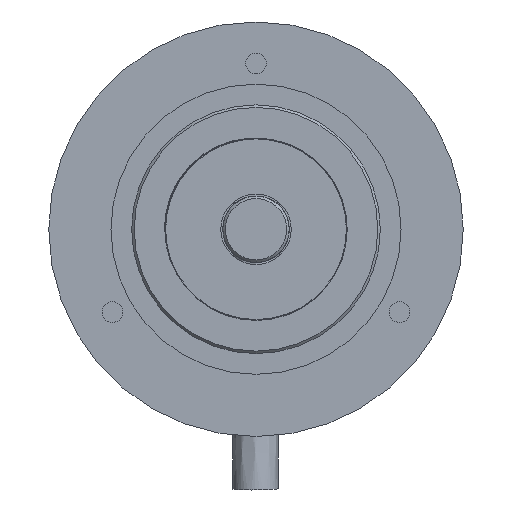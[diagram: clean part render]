
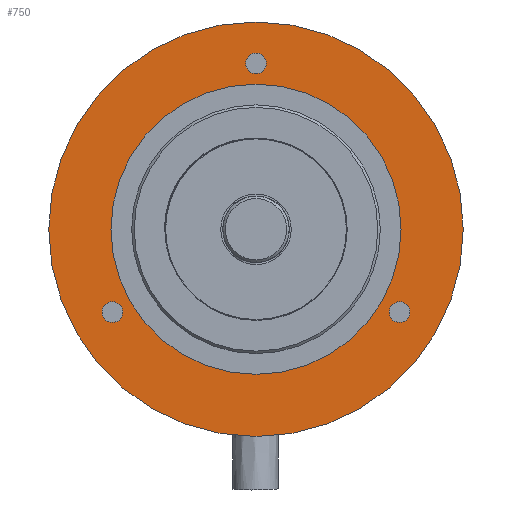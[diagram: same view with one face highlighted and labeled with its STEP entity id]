
A CAD part, left-side view. The second image highlights one B-rep face of the part: STEP entity #750.
In plain terms, the highlighted planar face has unit normal (-1, 0, 0).
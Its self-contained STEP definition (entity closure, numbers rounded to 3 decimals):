
#750 = ADVANCED_FACE( '', ( #1680, #1681, #1682, #1683, #1684 ), #1685, .T. );
#1680 = FACE_OUTER_BOUND( '', #3576, .T. );
#1681 = FACE_BOUND( '', #3577, .T. );
#1682 = FACE_BOUND( '', #3578, .T. );
#1683 = FACE_BOUND( '', #3579, .T. );
#1684 = FACE_BOUND( '', #3580, .T. );
#1685 = PLANE( '', #3581 );
#3576 = EDGE_LOOP( '', ( #6957 ) );
#3577 = EDGE_LOOP( '', ( #6958 ) );
#3578 = EDGE_LOOP( '', ( #6959 ) );
#3579 = EDGE_LOOP( '', ( #6960 ) );
#3580 = EDGE_LOOP( '', ( #6961 ) );
#3581 = AXIS2_PLACEMENT_3D( '', #6962, #6963, #6964 );
#6957 = ORIENTED_EDGE( '', *, *, #8897, .T. );
#6958 = ORIENTED_EDGE( '', *, *, #8160, .T. );
#6959 = ORIENTED_EDGE( '', *, *, #8413, .T. );
#6960 = ORIENTED_EDGE( '', *, *, #8094, .T. );
#6961 = ORIENTED_EDGE( '', *, *, #8898, .F. );
#6962 = CARTESIAN_POINT( '', ( -4.5, 0., 17.5 ) );
#6963 = DIRECTION( '', ( -1., 0., 0. ) );
#6964 = DIRECTION( '', ( 0., 0., 1. ) );
#8094 = EDGE_CURVE( '', #9187, #9187, #9188, .T. );
#8160 = EDGE_CURVE( '', #9304, #9304, #9305, .T. );
#8413 = EDGE_CURVE( '', #9740, #9740, #9741, .T. );
#8897 = EDGE_CURVE( '', #10455, #10455, #10456, .T. );
#8898 = EDGE_CURVE( '', #10457, #10457, #10458, .T. );
#9187 = VERTEX_POINT( '', #10808 );
#9188 = CIRCLE( '', #10809, 1.25 );
#9304 = VERTEX_POINT( '', #10965 );
#9305 = CIRCLE( '', #10966, 1.25 );
#9740 = VERTEX_POINT( '', #11813 );
#9741 = CIRCLE( '', #11814, 1.25 );
#10455 = VERTEX_POINT( '', #13590 );
#10456 = CIRCLE( '', #13591, 25. );
#10457 = VERTEX_POINT( '', #13592 );
#10458 = CIRCLE( '', #13593, 17.5 );
#10808 = CARTESIAN_POINT( '', ( -4.5, 0., 21.25 ) );
#10809 = AXIS2_PLACEMENT_3D( '', #15776, #15777, #15778 );
#10965 = CARTESIAN_POINT( '', ( -4.5, -17.321, -8.75 ) );
#10966 = AXIS2_PLACEMENT_3D( '', #15862, #15863, #15864 );
#11813 = CARTESIAN_POINT( '', ( -4.5, 17.321, -8.75 ) );
#11814 = AXIS2_PLACEMENT_3D( '', #16174, #16175, #16176 );
#13590 = CARTESIAN_POINT( '', ( -4.5, 0., 25. ) );
#13591 = AXIS2_PLACEMENT_3D( '', #16667, #16668, #16669 );
#13592 = CARTESIAN_POINT( '', ( -4.5, 0., 17.5 ) );
#13593 = AXIS2_PLACEMENT_3D( '', #16670, #16671, #16672 );
#15776 = CARTESIAN_POINT( '', ( -4.5, 0., 20. ) );
#15777 = DIRECTION( '', ( 1., 0., 0. ) );
#15778 = DIRECTION( '', ( 0., 0., 1. ) );
#15862 = CARTESIAN_POINT( '', ( -4.5, -17.321, -10. ) );
#15863 = DIRECTION( '', ( 1., 0., 0. ) );
#15864 = DIRECTION( '', ( 0., 0., 1. ) );
#16174 = CARTESIAN_POINT( '', ( -4.5, 17.321, -10. ) );
#16175 = DIRECTION( '', ( 1., 0., 0. ) );
#16176 = DIRECTION( '', ( 0., 0., 1. ) );
#16667 = CARTESIAN_POINT( '', ( -4.5, 0., 0. ) );
#16668 = DIRECTION( '', ( -1., 0., 0. ) );
#16669 = DIRECTION( '', ( 0., 0., 1. ) );
#16670 = CARTESIAN_POINT( '', ( -4.5, 0., 0. ) );
#16671 = DIRECTION( '', ( -1., 0., 0. ) );
#16672 = DIRECTION( '', ( 0., 0., 1. ) );
